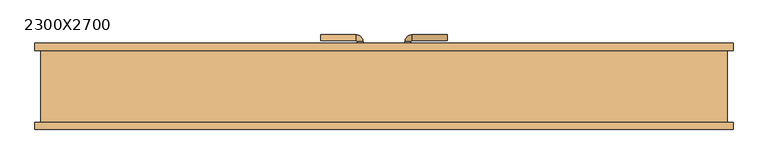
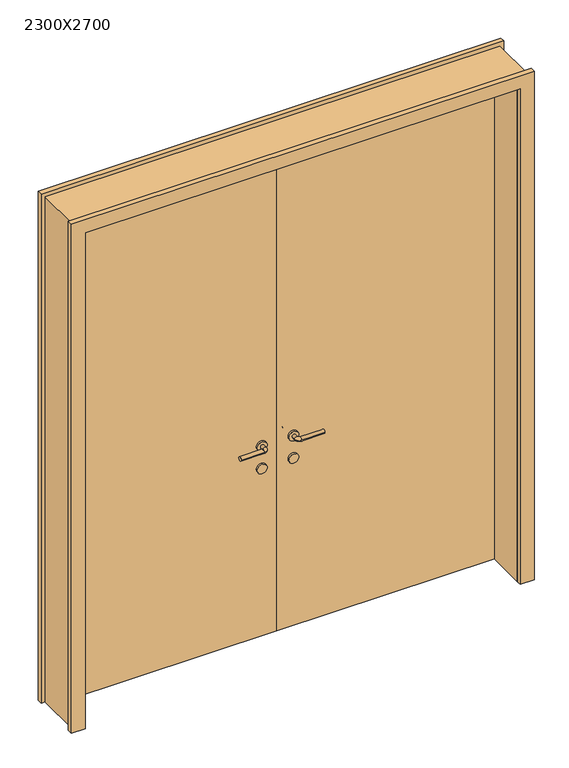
"""IFC4 building model written with IfcOpenShell, lengths in millimetres: door geometry, 双面嵌板木门 1 : 2300X2700."""

from ifc_helpers import new_model, si_unit, point, frame, frame_2d, origin, origin_with_axes, place, context, project, spatial, polyline, circle_curve, ellipse_curve, trimmed, segment, composite_curve, outline, extrude, source, transform, mapped, element, save
from ifc_brep_helpers import plane_surface, cylinder_surface, revolved_surface, advanced_brep


def door_2300x2700_a540c82a(model_context):
    return source(origin(), model_context, "Body", "SolidModel", [
        extrude(outline(composite_curve([segment(trimmed(circle_curve(frame_2d((900.0, 80.0)), 25.0), [point((900.0, 105.0))], [point((900.0, 55.0))], False, "CARTESIAN"), True, "CONTINUOUS"), segment(trimmed(circle_curve(frame_2d((900.0, 80.0)), 25.0), [point((900.0, 55.0))], [point((900.0, 105.0))], False, "CARTESIAN"), True, "CONTINUOUS")], self_intersect=False)), frame((0.0, 120.0, 0.0), z_axis=(0.0, 1.0, 0.0), x_axis=(0.0, 0.0, 1.0)), (0.0, 0.0, 1.0), 10.0),
        extrude(outline(composite_curve([segment(trimmed(circle_curve(frame_2d((900.0, 80.0)), 25.0), [point((900.0, 105.0))], [point((900.0, 55.0))], False, "CARTESIAN"), True, "CONTINUOUS"), segment(trimmed(circle_curve(frame_2d((900.0, 80.0)), 25.0), [point((900.0, 55.0))], [point((900.0, 105.0))], False, "CARTESIAN"), True, "CONTINUOUS")], self_intersect=False)), frame((0.0, 70.0, 0.0), z_axis=(0.0, 1.0, 0.0), x_axis=(0.0, 0.0, 1.0)), (0.0, 0.0, 1.0), 10.0),
        advanced_brep(
        [(70.0, 130.0, 1020.0), (90.0, 130.0, 1020.0), (70.0, 150.6133551, 1020.0), (90.0, 150.6133551, 1020.0), (211.580964, 173.580964, 1020.0), (211.580964, 153.580964, 1020.0), (92.9676089, 153.580964, 1020.0), (92.9676089, 173.580964, 1020.0)],
        [
            (0, 1, circle_curve(frame((80.0, 130.0, 1020.0), z_axis=(0.0, -1.0, 0.0), x_axis=(1.0, 0.0, 0.0)), 10.0)),
            (1, 0, circle_curve(frame((80.0, 130.0, 1020.0), z_axis=(0.0, -1.0, 0.0), x_axis=(1.0, 0.0, 0.0)), 10.0)),
            (0, 2),
            (2, 3, circle_curve(frame((80.0, 150.6133551, 1020.0), z_axis=(0.0, -1.0, 0.0), x_axis=(1.0, 0.0, 0.0)), 10.0)),
            (3, 1),
            (3, 2, circle_curve(frame((80.0, 150.6133551, 1020.0), z_axis=(0.0, -1.0, 0.0), x_axis=(1.0, 0.0, 0.0)), 10.0)),
            (4, 5, circle_curve(frame((211.580964, 163.580964, 1020.0), z_axis=(1.0, 0.0, 0.0), x_axis=(0.0, -1.0, 0.0)), 10.0)),
            (5, 4, circle_curve(frame((211.580964, 163.580964, 1020.0), z_axis=(1.0, 0.0, 0.0), x_axis=(0.0, -1.0, 0.0)), 10.0)),
            (6, 7, circle_curve(frame((92.9676089, 163.580964, 1020.0), z_axis=(-1.0, 0.0, 0.0), x_axis=(0.0, -1.0, 0.0)), 10.0)),
            (7, 2, circle_curve(frame((92.9676089, 150.6133551, 1020.0), z_axis=(0.0, 0.0, 1.0), x_axis=(-1.0, 0.0, 0.0)), 22.9676089)),
            (3, 6, circle_curve(frame((92.9676089, 150.6133551, 1020.0), z_axis=(0.0, 0.0, -1.0), x_axis=(-1.0, 0.0, 0.0)), 2.9676089)),
            (7, 6, circle_curve(frame((92.9676089, 163.580964, 1020.0), z_axis=(-1.0, 0.0, 0.0), x_axis=(0.0, -1.0, 0.0)), 10.0)),
            (6, 5),
            (4, 7),
        ],
        [
            plane_surface(frame((80.0, 130.0, 900.0), z_axis=(0.0, -1.0, 0.0), x_axis=(0.0, 0.0, 1.0))),
            cylinder_surface(frame((80.0, 130.0, 1020.0), z_axis=(0.0, -1.0, 0.0), x_axis=(1.0, 0.0, 0.0)), 10.0),
            plane_surface(frame((211.580964, 163.580964, 900.0), z_axis=(1.0, 0.0, 0.0), x_axis=(0.0, 0.0, 1.0))),
            revolved_surface(trimmed(ellipse_curve(frame((80.0, 150.6133551, 1020.0), z_axis=(0.0, 1.0, 0.0), x_axis=(1.0, 0.0, 0.0)), 10.0, 10.0), [point((70.0, 150.6133551, 1020.0))], [point((90.0, 150.6133551, 1020.0))], True, "CARTESIAN"), (92.9676089, 150.6133551, 900.0), (0.0, 0.0, 1.0)),
            revolved_surface(trimmed(ellipse_curve(frame((80.0, 150.6133551, 1020.0), z_axis=(0.0, 1.0, 0.0), x_axis=(1.0, 0.0, 0.0)), 10.0, 10.0), [point((90.0, 150.6133551, 1020.0))], [point((70.0, 150.6133551, 1020.0))], True, "CARTESIAN"), (92.9676089, 150.6133551, 900.0), (0.0, 0.0, 1.0)),
            cylinder_surface(frame((92.9676089, 163.580964, 1020.0), z_axis=(-1.0, 0.0, 0.0), x_axis=(0.0, -1.0, 0.0)), 10.0),
        ],
        [
            (0, [[1, 2]]),
            (1, [[3, 4, 5, -1]]),
            (1, [[-5, 6, -3, -2]]),
            (2, [[7, 8]]),
            (3, [[9, 10, -6, 11]]),
            (4, [[12, -11, -4, -10]]),
            (5, [[13, -7, 14, -9]]),
            (5, [[-14, -8, -13, -12]]),
        ],
    ),
        extrude(outline(composite_curve([segment(trimmed(circle_curve(frame_2d((1020.0, 80.0)), 25.0), [point((1020.0, 105.0))], [point((1020.0, 55.0))], False, "CARTESIAN"), True, "CONTINUOUS"), segment(trimmed(circle_curve(frame_2d((1020.0, 80.0)), 25.0), [point((1020.0, 55.0))], [point((1020.0, 105.0))], False, "CARTESIAN"), True, "CONTINUOUS")], self_intersect=False)), frame((0.0, 120.0, 0.0), z_axis=(0.0, 1.0, 0.0), x_axis=(0.0, 0.0, 1.0)), (0.0, 0.0, 1.0), 10.0),
        advanced_brep(
        [(90.0, 70.0, 1020.0), (70.0, 70.0, 1020.0), (70.0, 49.386645, 1020.0), (90.0, 49.386645, 1020.0), (211.580964, 46.419036, 1020.0), (211.580964, 26.419036, 1020.0), (92.9676089, 26.419036, 1020.0), (92.9676089, 46.419036, 1020.0)],
        [
            (0, 1, circle_curve(frame((80.0, 70.0, 1020.0), z_axis=(0.0, 1.0, 0.0), x_axis=(-1.0, 0.0, 0.0)), 10.0)),
            (1, 0, circle_curve(frame((80.0, 70.0, 1020.0), z_axis=(0.0, 1.0, 0.0), x_axis=(-1.0, 0.0, 0.0)), 10.0)),
            (1, 2),
            (2, 3, circle_curve(frame((80.0, 49.386645, 1020.0), z_axis=(0.0, 1.0, 0.0), x_axis=(-1.0, 0.0, 0.0)), 10.0)),
            (3, 0),
            (3, 2, circle_curve(frame((80.0, 49.386645, 1020.0), z_axis=(0.0, 1.0, 0.0), x_axis=(-1.0, 0.0, 0.0)), 10.0)),
            (4, 5, circle_curve(frame((211.580964, 36.419036, 1020.0), z_axis=(1.0, 0.0, 0.0), x_axis=(0.0, -1.0, 0.0)), 10.0)),
            (5, 4, circle_curve(frame((211.580964, 36.419036, 1020.0), z_axis=(1.0, 0.0, 0.0), x_axis=(0.0, -1.0, 0.0)), 10.0)),
            (6, 7, circle_curve(frame((92.9676089, 36.419036, 1020.0), z_axis=(-1.0, 0.0, 0.0), x_axis=(0.0, -1.0, 0.0)), 10.0)),
            (7, 3, circle_curve(frame((92.9676089, 49.386645, 1020.0), z_axis=(0.0, 0.0, -1.0), x_axis=(-1.0, 0.0, 0.0)), 2.9676089)),
            (2, 6, circle_curve(frame((92.9676089, 49.386645, 1020.0), z_axis=(0.0, 0.0, 1.0), x_axis=(-1.0, 0.0, 0.0)), 22.9676089)),
            (7, 6, circle_curve(frame((92.9676089, 36.419036, 1020.0), z_axis=(-1.0, 0.0, 0.0), x_axis=(0.0, -1.0, 0.0)), 10.0)),
            (6, 5),
            (4, 7),
        ],
        [
            plane_surface(frame((80.0, 70.0, 900.0), z_axis=(0.0, 1.0, 0.0), x_axis=(0.0, 0.0, 1.0))),
            cylinder_surface(frame((80.0, 70.0, 1020.0), z_axis=(0.0, 1.0, 0.0), x_axis=(-1.0, 0.0, 0.0)), 10.0),
            plane_surface(frame((211.580964, 36.419036, 900.0), z_axis=(1.0, 0.0, 0.0), x_axis=(0.0, 0.0, 1.0))),
            revolved_surface(trimmed(ellipse_curve(frame((80.0, 49.386645, 1020.0), z_axis=(0.0, -1.0, 0.0), x_axis=(-1.0, 0.0, 0.0)), 10.0, 10.0), [point((90.0, 49.386645, 1020.0))], [point((70.0, 49.386645, 1020.0))], True, "CARTESIAN"), (92.9676089, 49.386645, 900.0), (0.0, 0.0, -1.0)),
            revolved_surface(trimmed(ellipse_curve(frame((80.0, 49.386645, 1020.0), z_axis=(0.0, -1.0, 0.0), x_axis=(-1.0, 0.0, 0.0)), 10.0, 10.0), [point((70.0, 49.386645, 1020.0))], [point((90.0, 49.386645, 1020.0))], True, "CARTESIAN"), (92.9676089, 49.386645, 900.0), (0.0, 0.0, -1.0)),
            cylinder_surface(frame((92.9676089, 36.419036, 1020.0), z_axis=(-1.0, 0.0, 0.0), x_axis=(0.0, -1.0, 0.0)), 10.0),
        ],
        [
            (0, [[1, 2]]),
            (1, [[3, 4, 5, -2]]),
            (1, [[-5, 6, -3, -1]]),
            (2, [[7, 8]]),
            (3, [[9, 10, -4, 11]]),
            (4, [[12, -11, -6, -10]]),
            (5, [[13, -7, 14, -9]]),
            (5, [[-14, -8, -13, -12]]),
        ],
    ),
        extrude(outline(composite_curve([segment(trimmed(circle_curve(frame_2d((1020.0, 80.0)), 25.0), [point((1020.0, 105.0))], [point((1020.0, 55.0))], False, "CARTESIAN"), True, "CONTINUOUS"), segment(trimmed(circle_curve(frame_2d((1020.0, 80.0)), 25.0), [point((1020.0, 55.0))], [point((1020.0, 105.0))], False, "CARTESIAN"), True, "CONTINUOUS")], self_intersect=False)), frame((0.0, 70.0, 0.0), z_axis=(0.0, 1.0, 0.0), x_axis=(0.0, 0.0, 1.0)), (0.0, 0.0, 1.0), 10.0),
        extrude(outline(composite_curve([segment(trimmed(circle_curve(frame_2d((900.0, -80.0)), 25.0), [point((900.0, -105.0))], [point((900.0, -55.0))], False, "CARTESIAN"), True, "CONTINUOUS"), segment(trimmed(circle_curve(frame_2d((900.0, -80.0)), 25.0), [point((900.0, -55.0))], [point((900.0, -105.0))], False, "CARTESIAN"), True, "CONTINUOUS")], self_intersect=False)), frame((0.0, 120.0, 0.0), z_axis=(0.0, 1.0, 0.0), x_axis=(0.0, 0.0, 1.0)), (0.0, 0.0, 1.0), 10.0),
        extrude(outline(composite_curve([segment(trimmed(circle_curve(frame_2d((900.0, -80.0)), 25.0), [point((900.0, -105.0))], [point((900.0, -55.0))], False, "CARTESIAN"), True, "CONTINUOUS"), segment(trimmed(circle_curve(frame_2d((900.0, -80.0)), 25.0), [point((900.0, -55.0))], [point((900.0, -105.0))], False, "CARTESIAN"), True, "CONTINUOUS")], self_intersect=False)), frame((0.0, 70.0, 0.0), z_axis=(0.0, 1.0, 0.0), x_axis=(0.0, 0.0, 1.0)), (0.0, 0.0, 1.0), 10.0),
        advanced_brep(
        [(-70.0, 130.0, 1020.0), (-90.0, 130.0, 1020.0), (-90.0, 150.6133551, 1020.0), (-70.0, 150.6133551, 1020.0), (-211.580964, 173.580964, 1020.0), (-211.580964, 153.580964, 1020.0), (-92.9676089, 153.580964, 1020.0), (-92.9676089, 173.580964, 1020.0)],
        [
            (0, 1, circle_curve(frame((-80.0, 130.0, 1020.0), z_axis=(0.0, -1.0, 0.0), x_axis=(-1.0, 0.0, 0.0)), 10.0)),
            (1, 0, circle_curve(frame((-80.0, 130.0, 1020.0), z_axis=(0.0, -1.0, 0.0), x_axis=(-1.0, 0.0, 0.0)), 10.0)),
            (1, 2),
            (2, 3, circle_curve(frame((-80.0, 150.6133551, 1020.0), z_axis=(0.0, -1.0, 0.0), x_axis=(-1.0, 0.0, 0.0)), 10.0)),
            (3, 0),
            (3, 2, circle_curve(frame((-80.0, 150.6133551, 1020.0), z_axis=(0.0, -1.0, 0.0), x_axis=(-1.0, 0.0, 0.0)), 10.0)),
            (4, 5, circle_curve(frame((-211.580964, 163.580964, 1020.0), z_axis=(-1.0, 0.0, 0.0), x_axis=(0.0, -1.0, 0.0)), 10.0)),
            (5, 4, circle_curve(frame((-211.580964, 163.580964, 1020.0), z_axis=(-1.0, 0.0, 0.0), x_axis=(0.0, -1.0, 0.0)), 10.0)),
            (6, 2, circle_curve(frame((-92.9676089, 150.6133551, 1020.0), z_axis=(0.0, 0.0, -1.0), x_axis=(1.0, 0.0, 0.0)), 2.9676089)),
            (3, 7, circle_curve(frame((-92.9676089, 150.6133551, 1020.0), z_axis=(0.0, 0.0, 1.0), x_axis=(1.0, 0.0, 0.0)), 22.9676089)),
            (7, 6, circle_curve(frame((-92.9676089, 163.580964, 1020.0), z_axis=(1.0, 0.0, 0.0), x_axis=(0.0, -1.0, 0.0)), 10.0)),
            (6, 7, circle_curve(frame((-92.9676089, 163.580964, 1020.0), z_axis=(1.0, 0.0, 0.0), x_axis=(0.0, -1.0, 0.0)), 10.0)),
            (7, 4),
            (5, 6),
        ],
        [
            plane_surface(frame((-80.0, 130.0, 900.0), z_axis=(0.0, -1.0, 0.0), x_axis=(0.0, 0.0, 1.0))),
            cylinder_surface(frame((-80.0, 130.0, 1020.0), z_axis=(0.0, -1.0, 0.0), x_axis=(-1.0, 0.0, 0.0)), 10.0),
            plane_surface(frame((-211.580964, 163.580964, 900.0), z_axis=(-1.0, 0.0, 0.0), x_axis=(0.0, 0.0, 1.0))),
            revolved_surface(trimmed(ellipse_curve(frame((-80.0, 150.6133551, 1020.0), z_axis=(0.0, -1.0, 0.0), x_axis=(-1.0, 0.0, 0.0)), 10.0, 10.0), [point((-70.0, 150.6133551, 1020.0))], [point((-90.0, 150.6133551, 1020.0))], True, "CARTESIAN"), (-92.9676089, 150.6133551, 900.0), (0.0, 0.0, 1.0)),
            revolved_surface(trimmed(ellipse_curve(frame((-80.0, 150.6133551, 1020.0), z_axis=(0.0, -1.0, 0.0), x_axis=(-1.0, 0.0, 0.0)), 10.0, 10.0), [point((-90.0, 150.6133551, 1020.0))], [point((-70.0, 150.6133551, 1020.0))], True, "CARTESIAN"), (-92.9676089, 150.6133551, 900.0), (0.0, 0.0, 1.0)),
            cylinder_surface(frame((-92.9676089, 163.580964, 1020.0), z_axis=(1.0, 0.0, 0.0), x_axis=(0.0, -1.0, 0.0)), 10.0),
        ],
        [
            (0, [[1, 2]]),
            (1, [[-2, 3, 4, 5]]),
            (1, [[-1, -5, 6, -3]]),
            (2, [[7, 8]]),
            (3, [[9, -6, 10, 11]]),
            (4, [[-10, -4, -9, 12]]),
            (5, [[-11, 13, -8, 14]]),
            (5, [[-12, -14, -7, -13]]),
        ],
    ),
        extrude(outline(composite_curve([segment(trimmed(circle_curve(frame_2d((1020.0, -80.0)), 25.0), [point((1020.0, -105.0))], [point((1020.0, -55.0))], False, "CARTESIAN"), True, "CONTINUOUS"), segment(trimmed(circle_curve(frame_2d((1020.0, -80.0)), 25.0), [point((1020.0, -55.0))], [point((1020.0, -105.0))], False, "CARTESIAN"), True, "CONTINUOUS")], self_intersect=False)), frame((0.0, 120.0, 0.0), z_axis=(0.0, 1.0, 0.0), x_axis=(0.0, 0.0, 1.0)), (0.0, 0.0, 1.0), 10.0),
        advanced_brep(
        [(-90.0, 70.0, 1020.0), (-70.0, 70.0, 1020.0), (-90.0, 49.386645, 1020.0), (-70.0, 49.386645, 1020.0), (-211.580964, 46.419036, 1020.0), (-211.580964, 26.419036, 1020.0), (-92.9676089, 26.419036, 1020.0), (-92.9676089, 46.419036, 1020.0)],
        [
            (0, 1, circle_curve(frame((-80.0, 70.0, 1020.0), z_axis=(0.0, 1.0, 0.0), x_axis=(1.0, 0.0, 0.0)), 10.0)),
            (1, 0, circle_curve(frame((-80.0, 70.0, 1020.0), z_axis=(0.0, 1.0, 0.0), x_axis=(1.0, 0.0, 0.0)), 10.0)),
            (0, 2),
            (2, 3, circle_curve(frame((-80.0, 49.386645, 1020.0), z_axis=(0.0, 1.0, 0.0), x_axis=(1.0, 0.0, 0.0)), 10.0)),
            (3, 1),
            (3, 2, circle_curve(frame((-80.0, 49.386645, 1020.0), z_axis=(0.0, 1.0, 0.0), x_axis=(1.0, 0.0, 0.0)), 10.0)),
            (4, 5, circle_curve(frame((-211.580964, 36.419036, 1020.0), z_axis=(-1.0, 0.0, 0.0), x_axis=(0.0, -1.0, 0.0)), 10.0)),
            (5, 4, circle_curve(frame((-211.580964, 36.419036, 1020.0), z_axis=(-1.0, 0.0, 0.0), x_axis=(0.0, -1.0, 0.0)), 10.0)),
            (6, 3, circle_curve(frame((-92.9676089, 49.386645, 1020.0), z_axis=(0.0, 0.0, 1.0), x_axis=(1.0, 0.0, 0.0)), 22.9676089)),
            (2, 7, circle_curve(frame((-92.9676089, 49.386645, 1020.0), z_axis=(0.0, 0.0, -1.0), x_axis=(1.0, 0.0, 0.0)), 2.9676089)),
            (7, 6, circle_curve(frame((-92.9676089, 36.419036, 1020.0), z_axis=(1.0, 0.0, 0.0), x_axis=(0.0, -1.0, 0.0)), 10.0)),
            (6, 7, circle_curve(frame((-92.9676089, 36.419036, 1020.0), z_axis=(1.0, 0.0, 0.0), x_axis=(0.0, -1.0, 0.0)), 10.0)),
            (7, 4),
            (5, 6),
        ],
        [
            plane_surface(frame((-80.0, 70.0, 900.0), z_axis=(0.0, 1.0, 0.0), x_axis=(0.0, 0.0, 1.0))),
            cylinder_surface(frame((-80.0, 70.0, 1020.0), z_axis=(0.0, 1.0, 0.0), x_axis=(1.0, 0.0, 0.0)), 10.0),
            plane_surface(frame((-211.580964, 36.419036, 900.0), z_axis=(-1.0, 0.0, 0.0), x_axis=(0.0, 0.0, 1.0))),
            revolved_surface(trimmed(ellipse_curve(frame((-80.0, 49.386645, 1020.0), z_axis=(0.0, 1.0, 0.0), x_axis=(1.0, 0.0, 0.0)), 10.0, 10.0), [point((-90.0, 49.386645, 1020.0))], [point((-70.0, 49.386645, 1020.0))], True, "CARTESIAN"), (-92.9676089, 49.386645, 900.0), (0.0, 0.0, -1.0)),
            revolved_surface(trimmed(ellipse_curve(frame((-80.0, 49.386645, 1020.0), z_axis=(0.0, 1.0, 0.0), x_axis=(1.0, 0.0, 0.0)), 10.0, 10.0), [point((-70.0, 49.386645, 1020.0))], [point((-90.0, 49.386645, 1020.0))], True, "CARTESIAN"), (-92.9676089, 49.386645, 900.0), (0.0, 0.0, -1.0)),
            cylinder_surface(frame((-92.9676089, 36.419036, 1020.0), z_axis=(1.0, 0.0, 0.0), x_axis=(0.0, -1.0, 0.0)), 10.0),
        ],
        [
            (0, [[1, 2]]),
            (1, [[-1, 3, 4, 5]]),
            (1, [[-2, -5, 6, -3]]),
            (2, [[7, 8]]),
            (3, [[9, -4, 10, 11]]),
            (4, [[-10, -6, -9, 12]]),
            (5, [[-11, 13, -8, 14]]),
            (5, [[-12, -14, -7, -13]]),
        ],
    ),
        extrude(outline(composite_curve([segment(trimmed(circle_curve(frame_2d((1020.0, -80.0)), 25.0), [point((1020.0, -105.0))], [point((1020.0, -55.0))], False, "CARTESIAN"), True, "CONTINUOUS"), segment(trimmed(circle_curve(frame_2d((1020.0, -80.0)), 25.0), [point((1020.0, -55.0))], [point((1020.0, -105.0))], False, "CARTESIAN"), True, "CONTINUOUS")], self_intersect=False)), frame((0.0, 70.0, 0.0), z_axis=(0.0, 1.0, 0.0), x_axis=(0.0, 0.0, 1.0)), (0.0, 0.0, 1.0), 10.0),
        extrude(outline(polyline([(0.0, 1170.0), (2720.0, 1170.0), (2720.0, -1170.0), (0.0, -1170.0), (0.0, -1100.0), (2650.0, -1100.0), (2650.0, 1100.0), (0.0, 1100.0), (0.0, 1170.0)])), frame((0.0, 120.0, 0.0), z_axis=(0.0, 1.0, 0.0), x_axis=(0.0, 0.0, 1.0)), (0.0, 0.0, 1.0), 25.0),
        extrude(outline(polyline([(2720.0, 1170.0), (2720.0, -1170.0), (0.0, -1170.0), (0.0, -1100.0), (2650.0, -1100.0), (2650.0, 1100.0), (0.0, 1100.0), (0.0, 1170.0), (2720.0, 1170.0)])), frame((0.0, -145.0, 0.0), z_axis=(0.0, 1.0, 0.0), x_axis=(0.0, 0.0, 1.0)), (0.0, 0.0, 1.0), 25.0),
        extrude(outline(polyline([(1100.0, 80.0), (0.0, 80.0), (0.0, 120.0), (1100.0, 120.0), (1100.0, 80.0)])), origin_with_axes(), (0.0, 0.0, 1.0), 2650.0),
        extrude(outline(polyline([(0.0, 80.0), (-1100.0, 80.0), (-1100.0, 120.0), (0.0, 120.0), (0.0, 80.0)])), origin_with_axes(), (0.0, 0.0, 1.0), 2650.0),
        extrude(outline(polyline([(2700.0, -1150.0), (0.0, -1150.0), (0.0, -1100.0), (2650.0, -1100.0), (2650.0, 1100.0), (0.0, 1100.0), (0.0, 1150.0), (2700.0, 1150.0), (2700.0, -1150.0)])), frame((0.0, -120.0, 0.0), z_axis=(0.0, 1.0, 0.0), x_axis=(0.0, 0.0, 1.0)), (0.0, 0.0, 1.0), 240.0),
    ])


if __name__ == "__main__":
    model = new_model("IFC4")
    model_context = context("Model", 3, world=origin())
    ifc_project = project(units=[si_unit("LENGTHUNIT", "METRE", prefix="MILLI")], contexts=[model_context])
    site = spatial("IfcSite", under=ifc_project)
    building = spatial("IfcBuilding", under=site)
    placement = place(None, origin())
    door_2300x2700_shape = door_2300x2700_a540c82a(model_context)
    element("IfcDoor", 1, ObjectType="双面嵌板木门 1 : 2300X2700", at=placement, inside=building, context=model_context, shape_type="MappedRepresentation", body=[
        mapped(door_2300x2700_shape, transform((0.0, 0.0, 0.0), x_axis=(1.0, 0.0, 0.0), y_axis=(0.0, 1.0, 0.0), z_axis=(0.0, 0.0, 1.0))),
    ])
    save(model, "model.ifc")
